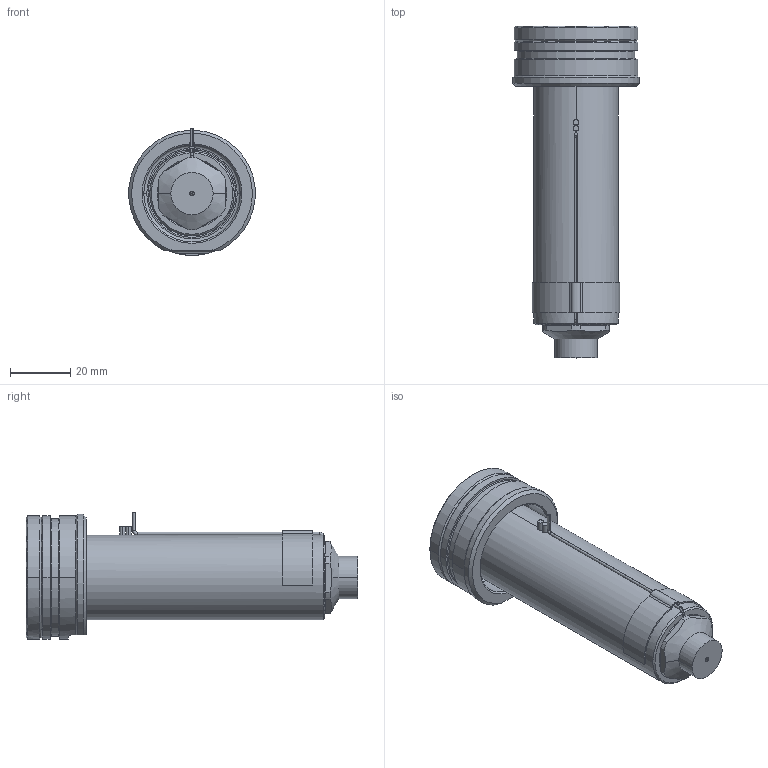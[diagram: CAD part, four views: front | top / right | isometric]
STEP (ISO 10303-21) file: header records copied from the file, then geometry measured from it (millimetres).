
FILE_DESCRIPTION((''),'2;1');
FILE_NAME('EO10_PG-FB_WR_090_SW','2024-02-19T11:34:48',('sundharh'),(''),'CREO PARAMETRIC BY PTC INC, 2023154','CREO PARAMETRIC BY PTC INC, 2023154','');
FILE_SCHEMA(('CONFIG_CONTROL_DESIGN'));
Length unit declared in the file: millimetre
Products named in the file (1): EO10_PG-FB_WR_090_SW
Bounding box: 41.85 x 110 x 42.02 mm (x, y, z)
Volume: 67688.4 mm3; surface area: 20265.4 mm2
Topology: 1 solids, 1 shells, 201 faces, 544 edges, 338 vertices
Faces by surface type: cylinder 80, plane 59, cone 39, torus 17, bspline 3, sphere 3
Entity records: 7361 total; most frequent: CARTESIAN_POINT 2193, DIRECTION 1128, ORIENTED_EDGE 1080, EDGE_CURVE 540, AXIS2_PLACEMENT_3D 470, VERTEX_POINT 338, CIRCLE 272, EDGE_LOOP 218
